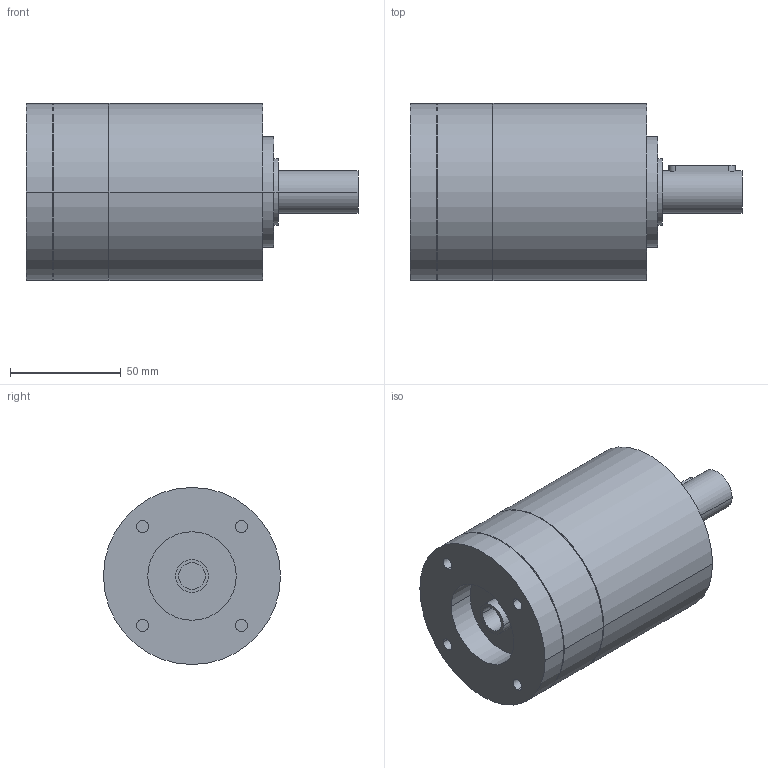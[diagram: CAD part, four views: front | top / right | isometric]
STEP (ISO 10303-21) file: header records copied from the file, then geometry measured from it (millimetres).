
FILE_DESCRIPTION(('CoCreate Modeling STEP Export'),'2;1');
FILE_NAME('GPR100_ig-3-4-5-6_19_B14_12_P17.stp','2014-08-26T10:06:03',(''),(''),'CoCreate Modeling STEP processor for AP214 (Solid Model)','CoCreate Modeling 16.00C 25-Feb-2009 (C) Parametric Technology GmbH','');
FILE_SCHEMA(('AUTOMOTIVE_DESIGN { 1 0 10303 214 1 1 1 1 }'));
Length unit declared in the file: millimetre
Products named in the file (2): GPR100_ig-3-4-5-6_19_B14_12_P17
Assembly tree (1 placements, depth 2):
  GPR100_ig-3-4-5-6_19_B14_12_P17
    GPR100_ig-3-4-5-6_19_B14_12_P17
Bounding box: 150 x 80 x 80 mm (x, y, z)
Volume: 539055.2 mm3; surface area: 46018.5 mm2
Topology: 1 solids, 1 shells, 77 faces, 193 edges, 137 vertices
Faces by surface type: cylinder 46, plane 25, cone 6
Entity records: 1951 total; most frequent: ORIENTED_EDGE 382, CARTESIAN_POINT 357, DIRECTION 254, EDGE_CURVE 191, VERTEX_POINT 137, AXIS2_PLACEMENT_3D 98, EDGE_LOOP 98, FACE_OUTER_BOUND 77
